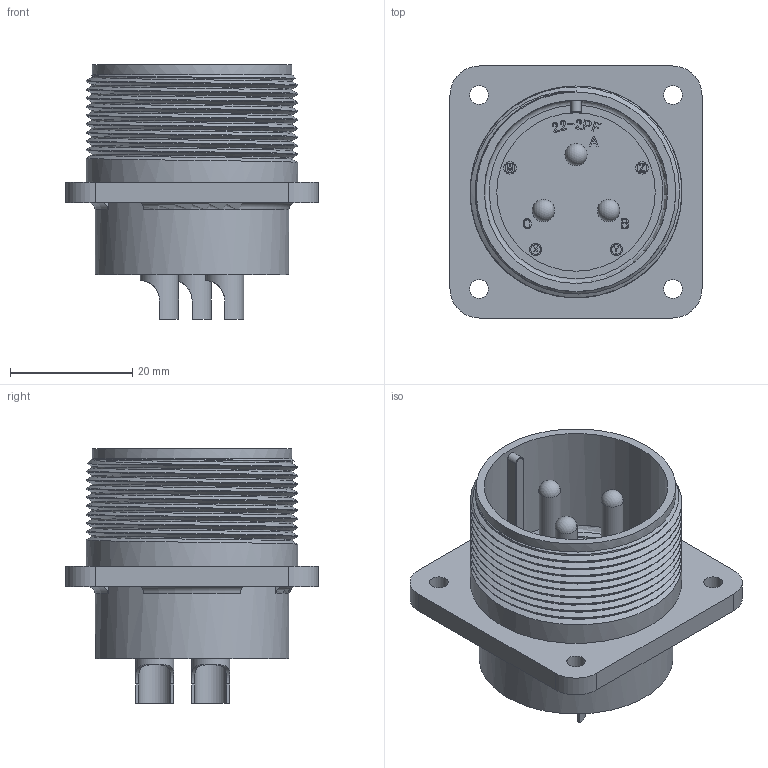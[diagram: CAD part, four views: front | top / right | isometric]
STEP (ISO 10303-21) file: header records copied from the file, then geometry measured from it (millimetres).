
FILE_DESCRIPTION (( 'STEP AP203' ), '1' );
FILE_NAME ('DMS3102A22-2P.STEP', '2019-03-20T00:29:48', ( '' ), ( '' ), 'SwSTEP 2.0', 'SolidWorks 2018', '' );
FILE_SCHEMA (( 'CONFIG_CONTROL_DESIGN' ));
Length unit declared in the file: millimetre
Products named in the file (1): DMS3102A22-2P
Bounding box: 41.27 x 41.27 x 41.66 mm (x, y, z)
Volume: 17766 mm3; surface area: 12612.2 mm2
Topology: 1 solids, 1 shells, 547 faces, 1474 edges, 976 vertices
Faces by surface type: plane 277, bspline 180, cylinder 78, torus 8, sphere 3, cone 1
Full cylindrical faces by diameter (mm): 1.6 x4, 2 x4, 3.05 x4, 3.63 x3, 5.21 x3, 6.25 x3, 23.16 x1, 25.94 x1, 30.03 x1, 31.75 x1, 32.68 x1, 34.66 x9
Entity records: 22929 total; most frequent: CARTESIAN_POINT 10773, ORIENTED_EDGE 2788, DIRECTION 1866, EDGE_CURVE 1394, VERTEX_POINT 939, VECTOR 872, LINE 872, EDGE_LOOP 629
